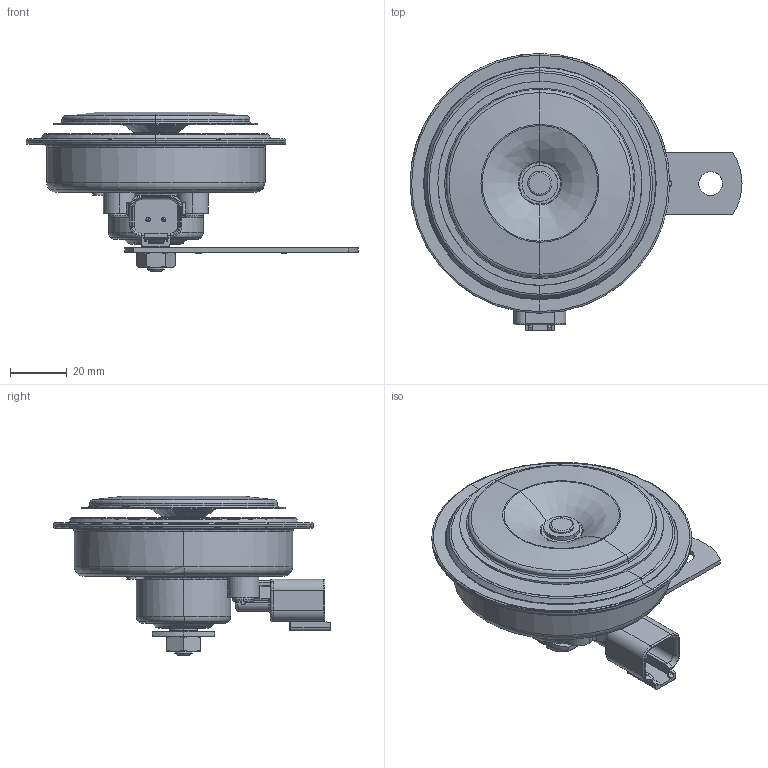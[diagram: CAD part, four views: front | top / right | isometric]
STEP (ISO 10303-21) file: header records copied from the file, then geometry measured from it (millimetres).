
FILE_DESCRIPTION(('CATIA V5 STEP Exchange','CAx-IF Rec.Pracs.--- Model Styling and Organization---1.5--- 2016-08-15','CAx-IF Rec.Pracs.---Supplemental Geometry---1.0---2011-11-01','CAx-IF Rec.Pracs.--- Composite Materials ---1.1---2010-07-15'),'2;1');
FILE_NAME('E:\tmp\ddx\2011226\HELLA_3D_data_Electronic_horn_S_92E_3AL-012-588-22.stp','2022-01-18T07:30:04+00:00',('none'),('none'),'CATIA Version 5-6 Release 2020 SP3 HF9','CATIA V5 STEP AP214 Edition 3 v2','none');
FILE_SCHEMA(('AUTOMOTIVE_DESIGN { 1 0 10303 214 3 1 1 1 }'));
Length unit declared in the file: millimetre
Products named in the file (1): 10002600463_D10_001
Bounding box: 116.62 x 97.22 x 56.14 mm (x, y, z)
Volume: 40339 mm3; surface area: 69332.8 mm2
Topology: 6 solids, 9 shells, 1073 faces, 3051 edges, 2011 vertices
Faces by surface type: plane 505, cylinder 273, torus 143, cone 103, bspline 43, sphere 6
Entity records: 39981 total; most frequent: CARTESIAN_POINT 14013, ORIENTED_EDGE 6086, DIRECTION 4173, EDGE_CURVE 3043, VERTEX_POINT 2011, AXIS2_PLACEMENT_3D 1937, VECTOR 1229, LINE 1229
